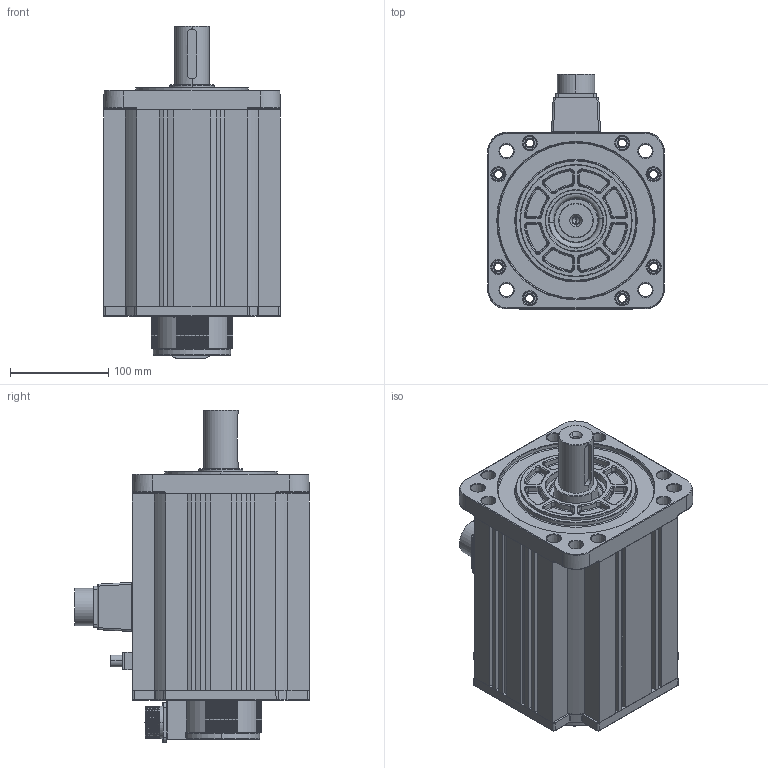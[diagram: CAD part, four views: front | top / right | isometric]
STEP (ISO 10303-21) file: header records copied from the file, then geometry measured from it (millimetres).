
FILE_DESCRIPTION (( 'STEP AP203' ), '1' );
FILE_NAME ('180ZF1500RPM3KW.STEP', '2024-08-03T09:23:19', ( 'MicroSoft' ), ( 'MicroSoft' ), 'SwSTEP 2.0', 'SolidWorks 2020', '' );
FILE_SCHEMA (( 'CONFIG_CONTROL_DESIGN' ));
Length unit declared in the file: millimetre
Products named in the file (17): Z180-01-04(180-5.5bk儂褲)_3KW 秶雄儂褲; 180呿蹋晤鎢ん欶褲; Z130A-01-02(编码器后罩壳）; 180ZF1500RPM3KW; 180ヶ粣創; 180-4郋萇埭; Z180-01-16(堤盄碟); 秶雄ん菜遴; 180陔癹弇釱躇猾菜2(1); H12秶雄ん菁釱; 180伺服电机全系类BLC制动转子轴_3KW; 180綴傷裔X 蜊(1); GB╱T 276-2013[两面带密封圈（非接触式）的深沟球轴承[60000-2RZ]6206-2RZ]_6206-2RZ; Z航插15芯（公头电机端）28; 180前端盖确定版(1)X; Z130A-01-03(编码器后罩壳封盖）; 180陔癹弇釱(1)
Assembly tree (16 placements, depth 3):
  180ZF1500RPM3KW
    180ヶ粣創
    180前端盖确定版(1)X
    180綴傷裔X 蜊(1)
    180呿蹋晤鎢ん欶褲
      Z130A-01-02(编码器后罩壳）
    Z航插15芯（公头电机端）28
    Z130A-01-03(编码器后罩壳封盖）
    Z180-01-04(180-5.5bk儂褲)_3KW 秶雄儂褲
    Z180-01-16(堤盄碟)
    180-4郋萇埭
    H12秶雄ん菁釱
    秶雄ん菜遴
    180陔癹弇釱(1)
    180陔癹弇釱躇猾菜2(1)
    180伺服电机全系类BLC制动转子轴_3KW
    GB╱T 276-2013[两面带密封圈（非接触式）的深沟球轴承[60000-2RZ]6206-2RZ]_6206-2RZ
Bounding box: 180.33 x 239.17 x 338 mm (x, y, z)
Volume: 2405830.3 mm3; surface area: 725537.9 mm2
Topology: 30 solids, 30 shells, 3657 faces, 8797 edges, 5207 vertices
Faces by surface type: cylinder 1139, plane 746, bspline 678, torus 548, cone 304, sphere 242
Entity records: 136908 total; most frequent: CARTESIAN_POINT 54684, ORIENTED_EDGE 16980, DIRECTION 16837, EDGE_CURVE 8490, AXIS2_PLACEMENT_3D 7019, VERTEX_POINT 5108, EDGE_LOOP 4054, CIRCLE 4020
